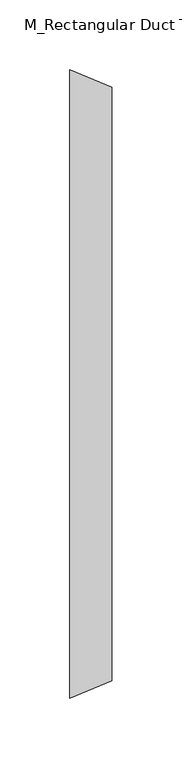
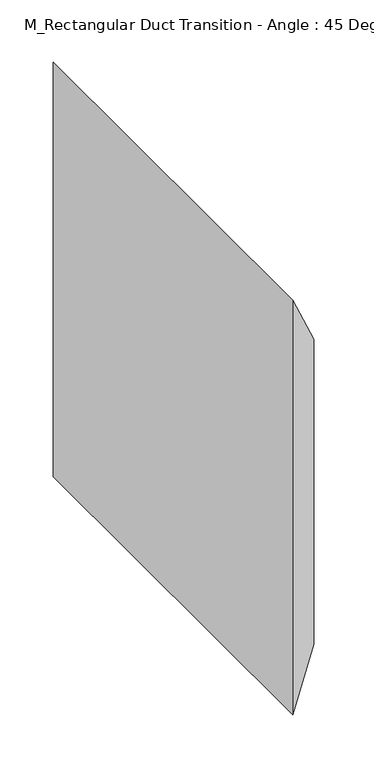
"""IFC4 building model written with IfcOpenShell, lengths in millimetres: duct fitting geometry, M_Rectangular Duct Transition - Angle : 45 Degree."""

from ifc_helpers import new_model, si_unit, origin, place, context, project, spatial, faceted_brep, source, transform, mapped, element, save


def m_rectangular_duct_transition_angle_45_degree_31185545(model_context):
    return source(origin(), model_context, "Body", "Brep", [
        faceted_brep([(30.1776695, -212.5, 175.0), (30.1776695, -212.5, -175.0), (30.1776695, 212.5, -175.0), (30.1776695, 212.5, 175.0), (0.0, -225.0, 237.5), (0.0, 225.0, 237.5), (0.0, 225.0, -237.5), (0.0, -225.0, -237.5)], [[[0, 1, 2, 3]], [[4, 5, 6, 7]], [[4, 7, 1, 0]], [[7, 6, 2, 1]], [[6, 5, 3, 2]], [[5, 4, 0, 3]]]),
        faceted_brep([(30.1776695, -212.5, 175.0), (30.1776695, -212.5, -175.0), (30.1776695, 212.5, -175.0), (30.1776695, 212.5, 175.0), (0.0, -225.0, 237.5), (0.0, 225.0, 237.5), (0.0, 225.0, -237.5), (0.0, -225.0, -237.5)], [[[0, 1, 2, 3]], [[4, 5, 6, 7]], [[4, 7, 1, 0]], [[7, 6, 2, 1]], [[6, 5, 3, 2]], [[5, 4, 0, 3]]]),
        faceted_brep([(30.1776695, -212.5, 175.0), (30.1776695, -212.5, -175.0), (30.1776695, 212.5, -175.0), (30.1776695, 212.5, 175.0), (0.0, -225.0, 237.5), (0.0, 225.0, 237.5), (0.0, 225.0, -237.5), (0.0, -225.0, -237.5)], [[[0, 1, 2, 3]], [[4, 5, 6, 7]], [[4, 7, 1, 0]], [[7, 6, 2, 1]], [[6, 5, 3, 2]], [[5, 4, 0, 3]]]),
    ])


if __name__ == "__main__":
    model = new_model("IFC4")
    model_context = context("Model", 3, world=origin())
    ifc_project = project(units=[si_unit("LENGTHUNIT", "METRE", prefix="MILLI")], contexts=[model_context])
    site = spatial("IfcSite", under=ifc_project)
    building = spatial("IfcBuilding", under=site)
    placement = place(None, origin())
    m_rectangular_duct_transition_angle_45_degree_shape = m_rectangular_duct_transition_angle_45_degree_31185545(model_context)
    element("IfcDuctFitting", 1, ObjectType="M_Rectangular Duct Transition - Angle : 45 Degree", at=placement, inside=building, context=model_context, shape_type="MappedRepresentation", body=[
        mapped(m_rectangular_duct_transition_angle_45_degree_shape, transform((0.0, 0.0, 0.0), x_axis=(1.0, 0.0, 0.0), y_axis=(0.0, 1.0, 0.0), z_axis=(0.0, 0.0, 1.0))),
    ])
    save(model, "model.ifc")
